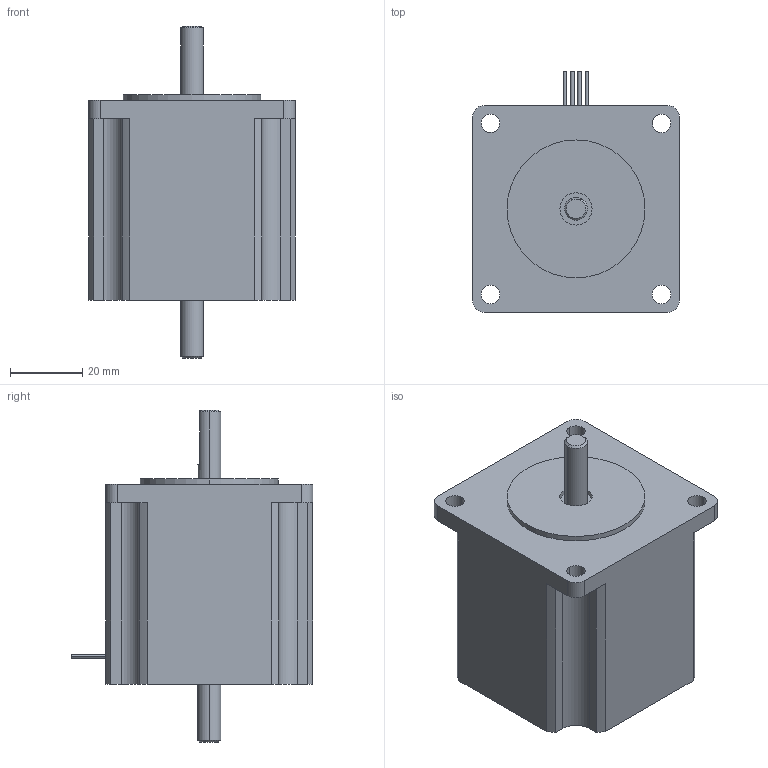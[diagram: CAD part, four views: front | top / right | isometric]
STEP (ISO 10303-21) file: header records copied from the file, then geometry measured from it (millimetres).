
FILE_DESCRIPTION((''),'2;1');
FILE_NAME('C:\Documents and Settings\rbadgerow\Desktop\webmodelmain\web step 3d\5718m\5718m d.stp','2005-05-23T09:13:15',('rbadgerow'),(''),'Autodesk Inventor 9','Autodesk Inventor 9','');
FILE_SCHEMA(('AUTOMOTIVE_DESIGN { 1 0 10303 214 1 1 1 1 }'));
Length unit declared in the file: inch
Products named in the file (1): 5718m d
Bounding box: 57.15 x 66.67 x 91.69 mm (x, y, z)
Volume: 165512.8 mm3; surface area: 19558.5 mm2
Topology: 2 solids, 2 shells, 77 faces, 192 edges, 127 vertices
Faces by surface type: cylinder 42, plane 30, cone 5
Entity records: 2373 total; most frequent: DIRECTION 439, CARTESIAN_POINT 401, ORIENTED_EDGE 384, EDGE_CURVE 192, AXIS2_PLACEMENT_3D 171, VERTEX_POINT 127, VECTOR 97, LINE 97
